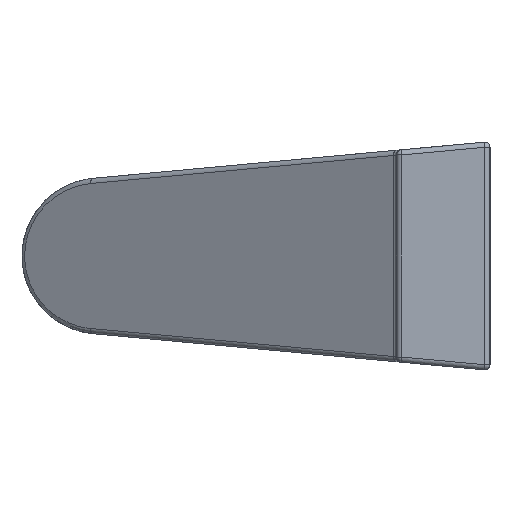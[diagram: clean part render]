
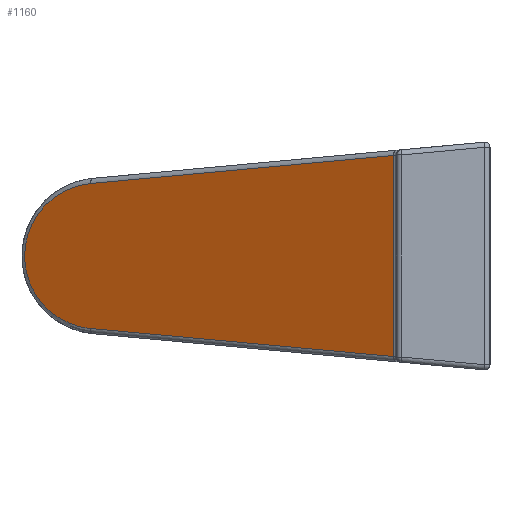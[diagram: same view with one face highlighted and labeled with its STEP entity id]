
A CAD part, left-side view. The second image highlights one B-rep face of the part: STEP entity #1160.
In plain terms, the highlighted planar face has unit normal (-0.87, 0.493, 0).
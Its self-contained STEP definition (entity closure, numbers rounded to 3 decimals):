
#66 = EDGE_CURVE ( 'NONE', #476, #137, #890, .T. ) ;
#110 = CARTESIAN_POINT ( 'NONE',  ( 14.01, -7.937, 65. ) ) ;
#137 = VERTEX_POINT ( 'NONE', #1495 ) ;
#214 = EDGE_CURVE ( 'NONE', #1198, #476, #1252, .T. ) ;
#260 = PLANE ( 'NONE',  #1693 ) ;
#277 = DIRECTION ( 'NONE',  ( 0.87, -0.493, 0. ) ) ;
#281 = EDGE_CURVE ( 'NONE', #751, #1198, #2784, .T. ) ;
#287 = VECTOR ( 'NONE', #1249, 1000. ) ;
#289 = DIRECTION ( 'NONE',  ( 0.493, 0.87, 0. ) ) ;
#405 = EDGE_CURVE ( 'NONE', #137, #751, #2993, .T. ) ;
#476 = VERTEX_POINT ( 'NONE', #3036 ) ;
#751 = VERTEX_POINT ( 'NONE', #1923 ) ;
#830 = CARTESIAN_POINT ( 'NONE',  ( 23.749, 9.254, -9.665 ) ) ;
#890 = LINE ( 'NONE', #1322, #287 ) ;
#974 = ORIENTED_EDGE ( 'NONE', *, *, #214, .T. ) ;
#1160 = ADVANCED_FACE ( 'NONE', ( #2721 ), #260, .F. ) ;
#1198 = VERTEX_POINT ( 'NONE', #830 ) ;
#1249 = DIRECTION ( 'NONE',  ( 0.491, 0.867, -0.08 ) ) ;
#1252 = LINE ( 'NONE', #1771, #3577 ) ;
#1298 = EDGE_LOOP ( 'NONE', ( #1870, #2687, #974, #3370 ) ) ;
#1322 = CARTESIAN_POINT ( 'NONE',  ( 11.892, -11.676, 11.6 ) ) ;
#1495 = CARTESIAN_POINT ( 'NONE',  ( 40.256, 38.391, 6.97 ) ) ;
#1693 = AXIS2_PLACEMENT_3D ( 'NONE', #110, #277, #289 ) ;
#1771 = CARTESIAN_POINT ( 'NONE',  ( 23.749, 9.254, 10.168 ) ) ;
#1805 = DIRECTION ( 'NONE',  ( 0., 0., 1. ) ) ;
#1870 = ORIENTED_EDGE ( 'NONE', *, *, #405, .T. ) ;
#1923 = CARTESIAN_POINT ( 'NONE',  ( 40.256, 38.391, -6.97 ) ) ;
#2073 = CARTESIAN_POINT ( 'NONE',  ( 17.015, -2.633, -10.764 ) ) ;
#2098 = DIRECTION ( 'NONE',  ( -0.491, -0.867, -0.08 ) ) ;
#2393 = CARTESIAN_POINT ( 'NONE',  ( 46.897, 50.113, 5.886 ) ) ;
#2600 = VECTOR ( 'NONE', #2098, 1000. ) ;
#2687 = ORIENTED_EDGE ( 'NONE', *, *, #281, .T. ) ;
#2721 = FACE_OUTER_BOUND ( 'NONE', #1298, .T. ) ;
#2722 = CARTESIAN_POINT ( 'NONE',  ( 40.256, 38.391, 6.97 ) ) ;
#2736 = CARTESIAN_POINT ( 'NONE',  ( 46.897, 50.113, -5.886 ) ) ;
#2761 = CARTESIAN_POINT ( 'NONE',  ( 40.256, 38.391, -6.97 ) ) ;
#2784 = LINE ( 'NONE', #2073, #2600 ) ;
#2993 =( BOUNDED_CURVE ( )  B_SPLINE_CURVE ( 3, ( #2722, #2393, #2736, #2761 ),
 .UNSPECIFIED., .F., .T. ) 
 B_SPLINE_CURVE_WITH_KNOTS ( ( 4, 4 ),
 ( 1.663, 4.62 ),
 .UNSPECIFIED. ) 
 CURVE ( )  GEOMETRIC_REPRESENTATION_ITEM ( )  RATIONAL_B_SPLINE_CURVE ( ( 1., 0.395, 0.395, 1. ) ) 
 REPRESENTATION_ITEM ( '' )  );
#3036 = CARTESIAN_POINT ( 'NONE',  ( 23.749, 9.254, 9.665 ) ) ;
#3370 = ORIENTED_EDGE ( 'NONE', *, *, #66, .T. ) ;
#3577 = VECTOR ( 'NONE', #1805, 1000. ) ;
